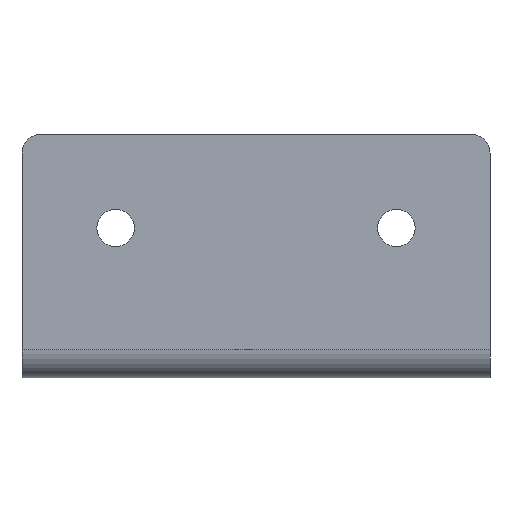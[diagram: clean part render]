
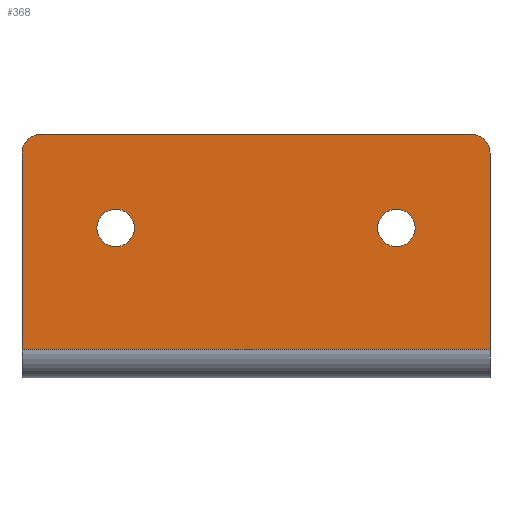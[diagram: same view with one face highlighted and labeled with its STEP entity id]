
A CAD part, left-side view. The second image highlights one B-rep face of the part: STEP entity #368.
In plain terms, the highlighted planar face has unit normal (-1, 0, 0).
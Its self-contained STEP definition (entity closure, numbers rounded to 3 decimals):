
#21=FACE_BOUND('',#71,.T.);
#22=FACE_BOUND('',#72,.T.);
#36=PLANE('',#400);
#46=FACE_OUTER_BOUND('',#70,.T.);
#70=EDGE_LOOP('',(#275,#276,#277,#278,#279,#280));
#71=EDGE_LOOP('',(#281));
#72=EDGE_LOOP('',(#282));
#109=LINE('',#585,#133);
#110=LINE('',#588,#134);
#111=LINE('',#592,#135);
#112=LINE('',#595,#136);
#133=VECTOR('',#465,50.);
#134=VECTOR('',#468,21.);
#135=VECTOR('',#471,46.);
#136=VECTOR('',#474,21.);
#159=CIRCLE('',#401,2.);
#160=CIRCLE('',#402,2.);
#161=CIRCLE('',#403,2.);
#162=CIRCLE('',#404,2.);
#185=VERTEX_POINT('',#578);
#188=VERTEX_POINT('',#583);
#189=VERTEX_POINT('',#587);
#190=VERTEX_POINT('',#589);
#191=VERTEX_POINT('',#591);
#192=VERTEX_POINT('',#593);
#193=VERTEX_POINT('',#596);
#194=VERTEX_POINT('',#598);
#225=EDGE_CURVE('',#188,#185,#109,.T.);
#226=EDGE_CURVE('',#188,#189,#110,.T.);
#227=EDGE_CURVE('',#190,#189,#159,.T.);
#228=EDGE_CURVE('',#191,#190,#111,.T.);
#229=EDGE_CURVE('',#192,#191,#160,.T.);
#230=EDGE_CURVE('',#185,#192,#112,.T.);
#231=EDGE_CURVE('',#193,#193,#161,.T.);
#232=EDGE_CURVE('',#194,#194,#162,.T.);
#275=ORIENTED_EDGE('',*,*,#225,.F.);
#276=ORIENTED_EDGE('',*,*,#226,.T.);
#277=ORIENTED_EDGE('',*,*,#227,.F.);
#278=ORIENTED_EDGE('',*,*,#228,.F.);
#279=ORIENTED_EDGE('',*,*,#229,.F.);
#280=ORIENTED_EDGE('',*,*,#230,.F.);
#281=ORIENTED_EDGE('',*,*,#231,.T.);
#282=ORIENTED_EDGE('',*,*,#232,.T.);
#368=ADVANCED_FACE('',(#46,#21,#22),#36,.T.);
#400=AXIS2_PLACEMENT_3D('',#586,#466,#467);
#401=AXIS2_PLACEMENT_3D('',#590,#469,#470);
#402=AXIS2_PLACEMENT_3D('',#594,#472,#473);
#403=AXIS2_PLACEMENT_3D('',#597,#475,#476);
#404=AXIS2_PLACEMENT_3D('',#599,#477,#478);
#465=DIRECTION('',(0.,1.,0.));
#466=DIRECTION('center_axis',(-1.,0.,0.));
#467=DIRECTION('ref_axis',(0.,-1.,0.));
#468=DIRECTION('',(0.,0.,1.));
#469=DIRECTION('center_axis',(1.,0.,0.));
#470=DIRECTION('ref_axis',(0.,-0.707,0.707));
#471=DIRECTION('',(0.,-1.,0.));
#472=DIRECTION('center_axis',(1.,0.,0.));
#473=DIRECTION('ref_axis',(0.,0.707,0.707));
#474=DIRECTION('',(0.,0.,1.));
#475=DIRECTION('center_axis',(1.,0.,0.));
#476=DIRECTION('ref_axis',(0.,0.,-1.));
#477=DIRECTION('center_axis',(1.,0.,0.));
#478=DIRECTION('ref_axis',(0.,0.,-1.));
#578=CARTESIAN_POINT('',(0.,25.,3.));
#583=CARTESIAN_POINT('',(0.,-25.,3.));
#585=CARTESIAN_POINT('',(0.,12.5,3.));
#586=CARTESIAN_POINT('Origin',(0.,25.,0.));
#587=CARTESIAN_POINT('',(0.,-25.,24.));
#588=CARTESIAN_POINT('',(0.,-25.,0.));
#589=CARTESIAN_POINT('',(0.,-23.,26.));
#590=CARTESIAN_POINT('Origin',(0.,-23.,24.));
#591=CARTESIAN_POINT('',(0.,23.,26.));
#592=CARTESIAN_POINT('',(0.,25.,26.));
#593=CARTESIAN_POINT('',(0.,25.,24.));
#594=CARTESIAN_POINT('Origin',(0.,23.,24.));
#595=CARTESIAN_POINT('',(0.,25.,0.));
#596=CARTESIAN_POINT('',(0.,15.,18.));
#597=CARTESIAN_POINT('Origin',(0.,15.,16.));
#598=CARTESIAN_POINT('',(0.,-15.,18.));
#599=CARTESIAN_POINT('Origin',(0.,-15.,16.));
